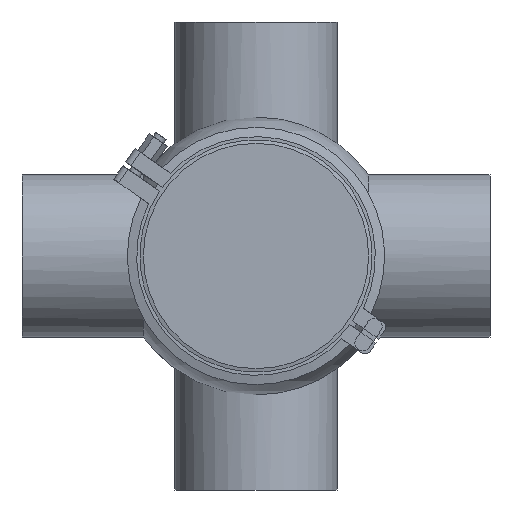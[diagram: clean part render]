
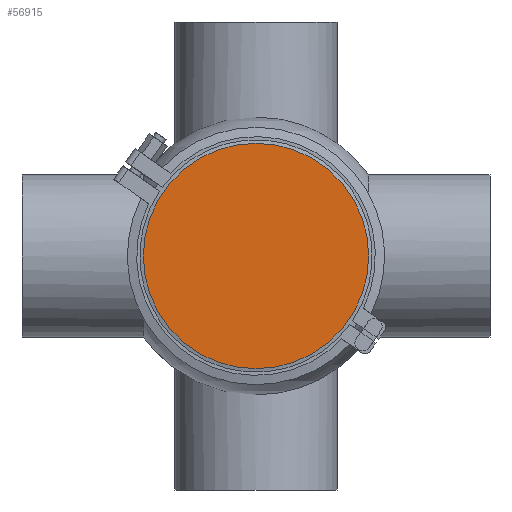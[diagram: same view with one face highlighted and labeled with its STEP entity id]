
A CAD part, front view. The second image highlights one B-rep face of the part: STEP entity #56915.
In plain terms, the highlighted planar face has unit normal (0, -1, 0).
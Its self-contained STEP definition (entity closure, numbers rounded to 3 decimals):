
#1806 = CIRCLE ( 'NONE', #41271, 72.25 ) ;
#10699 = CARTESIAN_POINT ( 'NONE',  ( 0., 0., 72.25 ) ) ;
#15648 = FACE_OUTER_BOUND ( 'NONE', #52123, .T. ) ;
#18362 = ORIENTED_EDGE ( 'NONE', *, *, #36377, .F. ) ;
#21448 = CARTESIAN_POINT ( 'NONE',  ( 0., 0., 0. ) ) ;
#25167 = CARTESIAN_POINT ( 'NONE',  ( -72.25, 0., 0. ) ) ;
#33041 = AXIS2_PLACEMENT_3D ( 'NONE', #25167, #40606, #49538 ) ;
#35972 = DIRECTION ( 'NONE',  ( 0., 1., 0. ) ) ;
#36377 = EDGE_CURVE ( 'NONE', #52961, #52961, #1806, .T. ) ;
#40606 = DIRECTION ( 'NONE',  ( 0., -1., 0. ) ) ;
#41271 = AXIS2_PLACEMENT_3D ( 'NONE', #21448, #35972, #59473 ) ;
#48628 = PLANE ( 'NONE',  #33041 ) ;
#49538 = DIRECTION ( 'NONE',  ( 0., 0., -1. ) ) ;
#52123 = EDGE_LOOP ( 'NONE', ( #18362 ) ) ;
#52961 = VERTEX_POINT ( 'NONE', #10699 ) ;
#56915 = ADVANCED_FACE ( 'NONE', ( #15648 ), #48628, .T. ) ;
#59473 = DIRECTION ( 'NONE',  ( 0., 0., 1. ) ) ;
